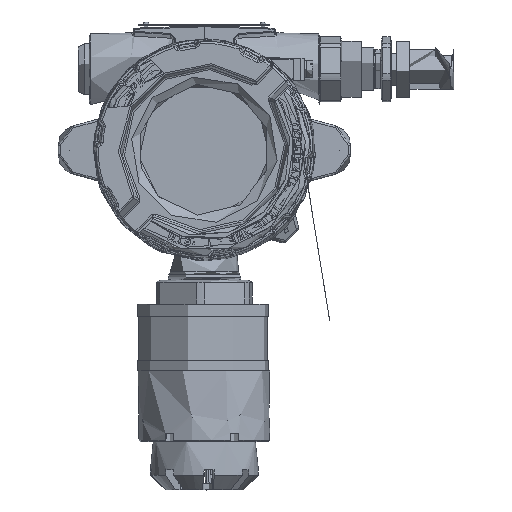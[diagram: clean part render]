
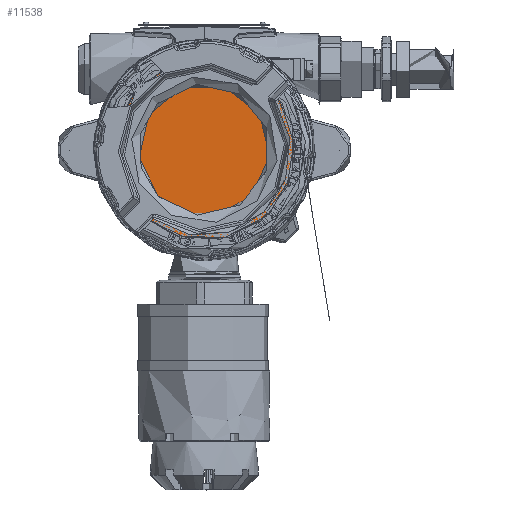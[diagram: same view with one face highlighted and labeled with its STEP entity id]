
A CAD part, top view. The second image highlights one B-rep face of the part: STEP entity #11538.
In plain terms, the highlighted planar face has unit normal (0, 0, 1) as drawn and (1, 0, 0) by its records, which use the part's own axes.
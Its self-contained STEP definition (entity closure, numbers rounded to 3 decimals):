
#11538=ADVANCED_FACE('',(#56621),#56623,.F.);
#56621=FACE_BOUND('',#56622,.T.);
#56622=EDGE_LOOP('',(#89313,#89314));
#56623=PLANE('',#56624);
#56624=AXIS2_PLACEMENT_3D('',#56625,#56626,#56627);
#56625=CARTESIAN_POINT('',(0.,0.,0.));
#56626=DIRECTION('',(-1.,0.,0.));
#56627=DIRECTION('',(0.,-1.,0.));
#89313=ORIENTED_EDGE('',*,*,#114117,.T.);
#89314=ORIENTED_EDGE('',*,*,#114118,.T.);
#114117=EDGE_CURVE('',#126981,#126982,#126983,.F.);
#114118=EDGE_CURVE('',#126982,#126981,#126984,.F.);
#126981=VERTEX_POINT('',#164025);
#126982=VERTEX_POINT('',#164026);
#126983=CIRCLE('',#164027,44.5);
#126984=CIRCLE('',#164031,44.5);
#164025=CARTESIAN_POINT('',(0.,-44.5,0.));
#164026=CARTESIAN_POINT('',(0.,31.466,-31.466));
#164027=AXIS2_PLACEMENT_3D('',#164028,#164029,#164030);
#164028=CARTESIAN_POINT('',(0.,0.,0.));
#164029=DIRECTION('',(-1.,0.,0.));
#164030=DIRECTION('',(0.,0.707,-0.707));
#164031=AXIS2_PLACEMENT_3D('',#164032,#164033,#164034);
#164032=CARTESIAN_POINT('',(0.,0.,0.));
#164033=DIRECTION('',(-1.,0.,0.));
#164034=DIRECTION('',(0.,-1.,0.));
